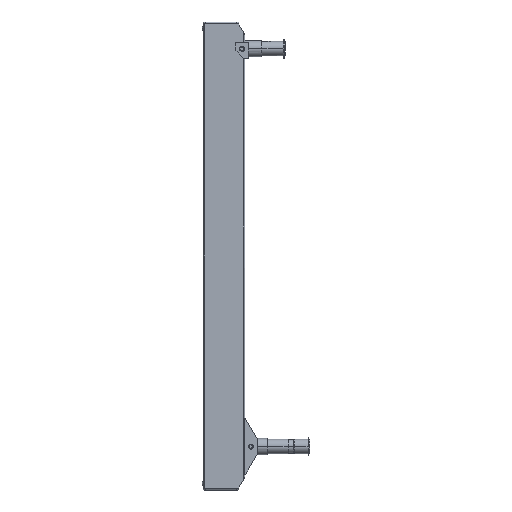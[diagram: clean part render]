
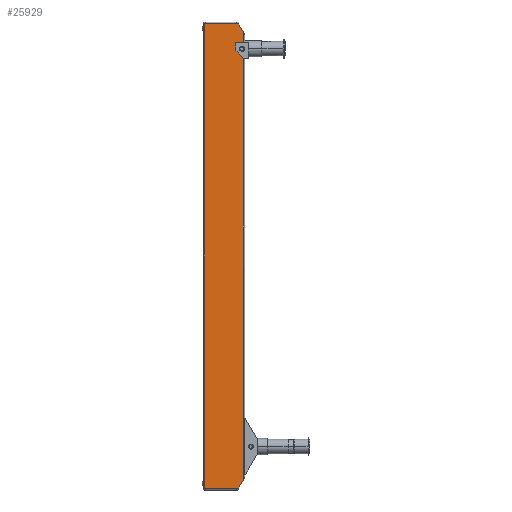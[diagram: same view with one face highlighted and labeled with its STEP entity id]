
A CAD part, left-side view. The second image highlights one B-rep face of the part: STEP entity #25929.
In plain terms, the highlighted planar face has unit normal (-1, 0, 0).
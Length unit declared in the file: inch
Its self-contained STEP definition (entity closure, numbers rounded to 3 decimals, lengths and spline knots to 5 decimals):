
#505 = VECTOR ( 'NONE', #59431, 39.37008 ) ;
#934 = VECTOR ( 'NONE', #19252, 39.37008 ) ;
#1051 = ORIENTED_EDGE ( 'NONE', *, *, #12108, .T. ) ;
#2682 = EDGE_LOOP ( 'NONE', ( #1051, #4051, #47662, #9208, #54883, #38263, #45766, #61006, #5425, #14926, #27434 ) ) ;
#3599 = LINE ( 'NONE', #53964, #4711 ) ;
#3610 = EDGE_CURVE ( 'NONE', #21938, #33198, #33836, .T. ) ;
#3678 = EDGE_CURVE ( 'NONE', #37073, #21788, #43157, .T. ) ;
#4051 = ORIENTED_EDGE ( 'NONE', *, *, #3678, .T. ) ;
#4511 = DIRECTION ( 'NONE',  ( 1., 0., 0. ) ) ;
#4711 = VECTOR ( 'NONE', #8580, 39.37008 ) ;
#5425 = ORIENTED_EDGE ( 'NONE', *, *, #28420, .T. ) ;
#5939 = CARTESIAN_POINT ( 'NONE',  ( -1.5, -0.1, 0. ) ) ;
#6525 = EDGE_CURVE ( 'NONE', #57015, #35956, #42907, .T. ) ;
#8580 = DIRECTION ( 'NONE',  ( 0., 0., -1. ) ) ;
#8761 = CARTESIAN_POINT ( 'NONE',  ( -1.5, -0.1, 28. ) ) ;
#9208 = ORIENTED_EDGE ( 'NONE', *, *, #3610, .F. ) ;
#9784 = CARTESIAN_POINT ( 'NONE',  ( -1.5, -0.1, 28. ) ) ;
#12108 = EDGE_CURVE ( 'NONE', #57015, #37073, #43534, .T. ) ;
#13774 = PLANE ( 'NONE',  #40274 ) ;
#14926 = ORIENTED_EDGE ( 'NONE', *, *, #57781, .T. ) ;
#15011 = LINE ( 'NONE', #49495, #505 ) ;
#16042 = CARTESIAN_POINT ( 'NONE',  ( -1.5, -2.4, 26.375 ) ) ;
#17538 = VECTOR ( 'NONE', #22375, 39.37008 ) ;
#17696 = DIRECTION ( 'NONE',  ( 1., 0., 0. ) ) ;
#18551 = EDGE_CURVE ( 'NONE', #51474, #59254, #37007, .T. ) ;
#19252 = DIRECTION ( 'NONE',  ( 0., 1., 0. ) ) ;
#19417 = VECTOR ( 'NONE', #27043, 39.37008 ) ;
#19582 = CARTESIAN_POINT ( 'NONE',  ( -1.5, -2.17438, 26.5 ) ) ;
#20561 = VECTOR ( 'NONE', #63169, 39.37008 ) ;
#21788 = VERTEX_POINT ( 'NONE', #8761 ) ;
#21938 = VERTEX_POINT ( 'NONE', #55115 ) ;
#22375 = DIRECTION ( 'NONE',  ( 0., 0.5, 0.866 ) ) ;
#23075 = LINE ( 'NONE', #64094, #58641 ) ;
#25929 = ADVANCED_FACE ( 'NONE', ( #34970 ), #13774, .T. ) ;
#27043 = DIRECTION ( 'NONE',  ( 0., 0., -1. ) ) ;
#27121 = CARTESIAN_POINT ( 'NONE',  ( -1.5, -2.5, 26.375 ) ) ;
#27434 = ORIENTED_EDGE ( 'NONE', *, *, #6525, .F. ) ;
#28420 = EDGE_CURVE ( 'NONE', #34544, #41110, #40200, .T. ) ;
#30032 = DIRECTION ( 'NONE',  ( -1., 0., 0. ) ) ;
#32620 = DIRECTION ( 'NONE',  ( 0., 1., 0. ) ) ;
#33198 = VERTEX_POINT ( 'NONE', #5939 ) ;
#33627 = CARTESIAN_POINT ( 'NONE',  ( -1.5, -2.4, 0.47631 ) ) ;
#33836 = LINE ( 'NONE', #49398, #934 ) ;
#34544 = VERTEX_POINT ( 'NONE', #19582 ) ;
#34970 = FACE_OUTER_BOUND ( 'NONE', #2682, .T. ) ;
#35159 = DIRECTION ( 'NONE',  ( 0., 0., -1. ) ) ;
#35407 = CARTESIAN_POINT ( 'NONE',  ( -1.5, -2.37942, 26.625 ) ) ;
#35956 = VERTEX_POINT ( 'NONE', #59819 ) ;
#36925 = CARTESIAN_POINT ( 'NONE',  ( -1.5, -2.315, 26.5 ) ) ;
#37007 = LINE ( 'NONE', #27121, #20561 ) ;
#37073 = VERTEX_POINT ( 'NONE', #41874 ) ;
#37619 = DIRECTION ( 'NONE',  ( 0., -1., 0. ) ) ;
#38105 = EDGE_CURVE ( 'NONE', #59254, #34544, #50806, .T. ) ;
#38263 = ORIENTED_EDGE ( 'NONE', *, *, #42695, .F. ) ;
#39476 = LINE ( 'NONE', #64993, #54555 ) ;
#40200 = CIRCLE ( 'NONE', #64512, 0.14062 ) ;
#40274 = AXIS2_PLACEMENT_3D ( 'NONE', #9784, #30032, #50209 ) ;
#40809 = CARTESIAN_POINT ( 'NONE',  ( -1.5, -2.37942, 26.375 ) ) ;
#41110 = VERTEX_POINT ( 'NONE', #35407 ) ;
#41874 = CARTESIAN_POINT ( 'NONE',  ( -1.5, -2.125, 28. ) ) ;
#42695 = EDGE_CURVE ( 'NONE', #51474, #52782, #3599, .T. ) ;
#42907 = LINE ( 'NONE', #52492, #19417 ) ;
#43157 = LINE ( 'NONE', #58366, #59154 ) ;
#43534 = LINE ( 'NONE', #58092, #17538 ) ;
#44119 = DIRECTION ( 'NONE',  ( 0., 1., 0. ) ) ;
#44623 = DIRECTION ( 'NONE',  ( 0., 1., 0. ) ) ;
#45346 = EDGE_CURVE ( 'NONE', #21788, #33198, #39476, .T. ) ;
#45766 = ORIENTED_EDGE ( 'NONE', *, *, #18551, .T. ) ;
#47662 = ORIENTED_EDGE ( 'NONE', *, *, #45346, .T. ) ;
#49250 = CARTESIAN_POINT ( 'NONE',  ( -1.5, -2.315, 26.5 ) ) ;
#49398 = CARTESIAN_POINT ( 'NONE',  ( -1.5, -0.1, 0. ) ) ;
#49495 = CARTESIAN_POINT ( 'NONE',  ( -1.5, -2.5, 0.64952 ) ) ;
#50209 = DIRECTION ( 'NONE',  ( 0., -1., 0. ) ) ;
#50806 = CIRCLE ( 'NONE', #51908, 0.14062 ) ;
#51474 = VERTEX_POINT ( 'NONE', #16042 ) ;
#51908 = AXIS2_PLACEMENT_3D ( 'NONE', #49250, #4511, #44623 ) ;
#52492 = CARTESIAN_POINT ( 'NONE',  ( -1.5, -2.4, 28. ) ) ;
#52782 = VERTEX_POINT ( 'NONE', #33627 ) ;
#53964 = CARTESIAN_POINT ( 'NONE',  ( -1.5, -2.4, 28. ) ) ;
#54555 = VECTOR ( 'NONE', #35159, 39.37008 ) ;
#54883 = ORIENTED_EDGE ( 'NONE', *, *, #58044, .T. ) ;
#55115 = CARTESIAN_POINT ( 'NONE',  ( -1.5, -2.125, 0. ) ) ;
#57015 = VERTEX_POINT ( 'NONE', #63289 ) ;
#57781 = EDGE_CURVE ( 'NONE', #41110, #35956, #23075, .T. ) ;
#58044 = EDGE_CURVE ( 'NONE', #21938, #52782, #15011, .T. ) ;
#58092 = CARTESIAN_POINT ( 'NONE',  ( -1.5, -2.5, 27.35048 ) ) ;
#58366 = CARTESIAN_POINT ( 'NONE',  ( -1.5, -0.1, 28. ) ) ;
#58641 = VECTOR ( 'NONE', #37619, 39.37008 ) ;
#59154 = VECTOR ( 'NONE', #44119, 39.37008 ) ;
#59254 = VERTEX_POINT ( 'NONE', #40809 ) ;
#59431 = DIRECTION ( 'NONE',  ( 0., -0.5, 0.866 ) ) ;
#59819 = CARTESIAN_POINT ( 'NONE',  ( -1.5, -2.4, 26.625 ) ) ;
#61006 = ORIENTED_EDGE ( 'NONE', *, *, #38105, .T. ) ;
#63169 = DIRECTION ( 'NONE',  ( 0., 1., 0. ) ) ;
#63289 = CARTESIAN_POINT ( 'NONE',  ( -1.5, -2.4, 27.52369 ) ) ;
#64094 = CARTESIAN_POINT ( 'NONE',  ( -1.5, -2.5, 26.625 ) ) ;
#64512 = AXIS2_PLACEMENT_3D ( 'NONE', #36925, #17696, #32620 ) ;
#64993 = CARTESIAN_POINT ( 'NONE',  ( -1.5, -0.1, 28. ) ) ;
